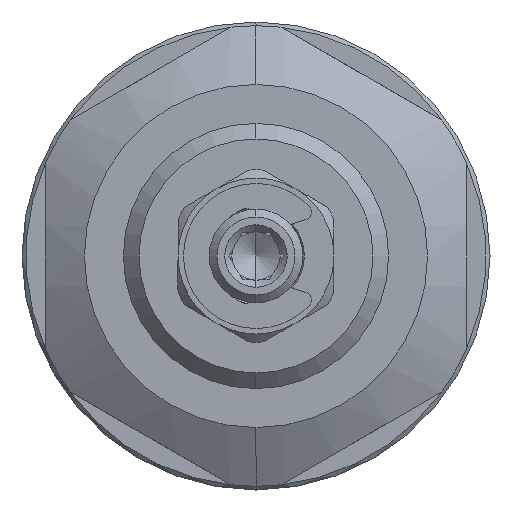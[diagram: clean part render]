
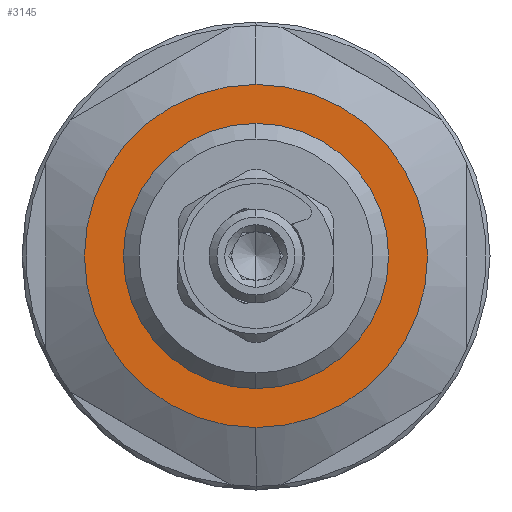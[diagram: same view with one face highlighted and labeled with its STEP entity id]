
A CAD part, left-side view. The second image highlights one B-rep face of the part: STEP entity #3145.
In plain terms, the highlighted planar face has unit normal (-1, 0, 0).
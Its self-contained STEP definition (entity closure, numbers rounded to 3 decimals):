
#82 = VERTEX_POINT ( 'NONE', #10682 ) ;
#1327 = CARTESIAN_POINT ( 'NONE',  ( 13.9, 0., 8.5 ) ) ;
#1769 = AXIS2_PLACEMENT_3D ( 'NONE', #4255, #5419, #9119 ) ;
#2123 = CIRCLE ( 'NONE', #7146, 11. ) ;
#2790 = CARTESIAN_POINT ( 'NONE',  ( 13.9, 0., 0. ) ) ;
#3111 = VERTEX_POINT ( 'NONE', #7013 ) ;
#3145 = ADVANCED_FACE ( 'NONE', ( #12979, #7287 ), #10503, .T. ) ;
#3761 = DIRECTION ( 'NONE',  ( -1., 0., 0. ) ) ;
#3902 = DIRECTION ( 'NONE',  ( -1., 0., 0. ) ) ;
#4140 = ORIENTED_EDGE ( 'NONE', *, *, #4550, .F. ) ;
#4255 = CARTESIAN_POINT ( 'NONE',  ( 13.9, 0., 0. ) ) ;
#4307 = AXIS2_PLACEMENT_3D ( 'NONE', #5271, #6348, #7377 ) ;
#4550 = EDGE_CURVE ( 'NONE', #11480, #3111, #5768, .T. ) ;
#4987 = CIRCLE ( 'NONE', #8611, 8.5 ) ;
#5188 = ORIENTED_EDGE ( 'NONE', *, *, #6008, .T. ) ;
#5201 = ORIENTED_EDGE ( 'NONE', *, *, #9367, .T. ) ;
#5271 = CARTESIAN_POINT ( 'NONE',  ( 13.9, 8.5, 0. ) ) ;
#5419 = DIRECTION ( 'NONE',  ( -1., 0., 0. ) ) ;
#5768 = CIRCLE ( 'NONE', #6642, 8.5 ) ;
#5942 = CARTESIAN_POINT ( 'NONE',  ( 13.9, 0., 11. ) ) ;
#5945 = EDGE_CURVE ( 'NONE', #3111, #11480, #4987, .T. ) ;
#6008 = EDGE_CURVE ( 'NONE', #6743, #82, #2123, .T. ) ;
#6261 = EDGE_LOOP ( 'NONE', ( #4140, #9278 ) ) ;
#6348 = DIRECTION ( 'NONE',  ( -1., 0., 0. ) ) ;
#6642 = AXIS2_PLACEMENT_3D ( 'NONE', #12520, #3761, #6682 ) ;
#6682 = DIRECTION ( 'NONE',  ( 0., 0., 1. ) ) ;
#6743 = VERTEX_POINT ( 'NONE', #5942 ) ;
#6987 = CIRCLE ( 'NONE', #1769, 11. ) ;
#7013 = CARTESIAN_POINT ( 'NONE',  ( 13.9, 0., -8.5 ) ) ;
#7146 = AXIS2_PLACEMENT_3D ( 'NONE', #2790, #9179, #8121 ) ;
#7226 = EDGE_LOOP ( 'NONE', ( #5201, #5188 ) ) ;
#7287 = FACE_BOUND ( 'NONE', #6261, .T. ) ;
#7377 = DIRECTION ( 'NONE',  ( 0., 0., 1. ) ) ;
#8121 = DIRECTION ( 'NONE',  ( 0., 0., 1. ) ) ;
#8611 = AXIS2_PLACEMENT_3D ( 'NONE', #11368, #3902, #10267 ) ;
#9119 = DIRECTION ( 'NONE',  ( 0., 0., 1. ) ) ;
#9179 = DIRECTION ( 'NONE',  ( -1., 0., 0. ) ) ;
#9278 = ORIENTED_EDGE ( 'NONE', *, *, #5945, .F. ) ;
#9367 = EDGE_CURVE ( 'NONE', #82, #6743, #6987, .T. ) ;
#10267 = DIRECTION ( 'NONE',  ( 0., 0., 1. ) ) ;
#10503 = PLANE ( 'NONE',  #4307 ) ;
#10682 = CARTESIAN_POINT ( 'NONE',  ( 13.9, 0., -11. ) ) ;
#11368 = CARTESIAN_POINT ( 'NONE',  ( 13.9, 0., 0. ) ) ;
#11480 = VERTEX_POINT ( 'NONE', #1327 ) ;
#12520 = CARTESIAN_POINT ( 'NONE',  ( 13.9, 0., 0. ) ) ;
#12979 = FACE_OUTER_BOUND ( 'NONE', #7226, .T. ) ;
